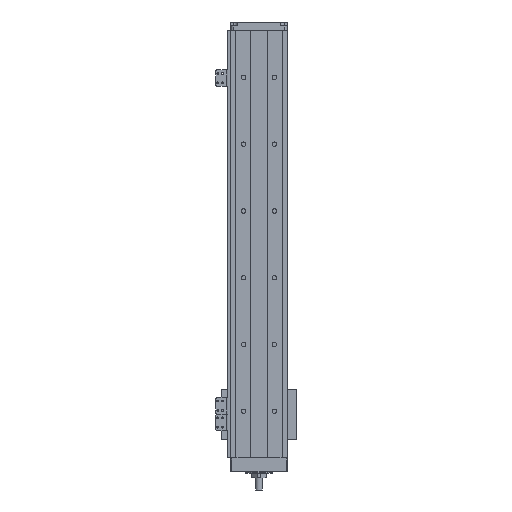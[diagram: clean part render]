
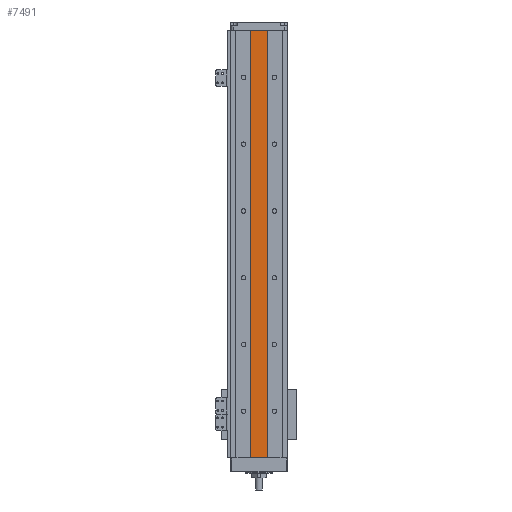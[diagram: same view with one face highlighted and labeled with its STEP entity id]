
A CAD part, front view. The second image highlights one B-rep face of the part: STEP entity #7491.
In plain terms, the highlighted planar face has unit normal (0, -1, 0).
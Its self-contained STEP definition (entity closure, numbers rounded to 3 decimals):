
#27 = CARTESIAN_POINT ( 'NONE',  ( -12.269, -13.462, 0. ) ) ;
#2069 = EDGE_CURVE ( 'NONE', #17194, #11913, #22818, .T. ) ;
#4207 = PLANE ( 'NONE',  #17218 ) ;
#5808 = CARTESIAN_POINT ( 'NONE',  ( -12.269, -13.462, 640. ) ) ;
#6252 = EDGE_CURVE ( 'NONE', #8480, #11913, #10338, .T. ) ;
#7025 = VECTOR ( 'NONE', #20827, 1000. ) ;
#7036 = CARTESIAN_POINT ( 'NONE',  ( 11.731, -13.462, 0. ) ) ;
#7491 = ADVANCED_FACE ( 'NONE', ( #11875 ), #4207, .F. ) ;
#8480 = VERTEX_POINT ( 'NONE', #16109 ) ;
#8508 = VECTOR ( 'NONE', #14448, 1000. ) ;
#10338 = LINE ( 'NONE', #27, #30479 ) ;
#11615 = ORIENTED_EDGE ( 'NONE', *, *, #2069, .F. ) ;
#11875 = FACE_OUTER_BOUND ( 'NONE', #29252, .T. ) ;
#11913 = VERTEX_POINT ( 'NONE', #7036 ) ;
#12116 = CARTESIAN_POINT ( 'NONE',  ( -12.269, -13.462, 640. ) ) ;
#14448 = DIRECTION ( 'NONE',  ( 1., 0., 0. ) ) ;
#14632 = CARTESIAN_POINT ( 'NONE',  ( 11.731, -13.462, 640. ) ) ;
#15615 = CARTESIAN_POINT ( 'NONE',  ( 11.731, -13.462, 640. ) ) ;
#16040 = ORIENTED_EDGE ( 'NONE', *, *, #19378, .T. ) ;
#16109 = CARTESIAN_POINT ( 'NONE',  ( -12.269, -13.462, 0. ) ) ;
#16449 = VERTEX_POINT ( 'NONE', #31011 ) ;
#16491 = CARTESIAN_POINT ( 'NONE',  ( -12.269, -13.462, 640. ) ) ;
#16924 = DIRECTION ( 'NONE',  ( 0., 0., 1. ) ) ;
#17194 = VERTEX_POINT ( 'NONE', #14632 ) ;
#17218 = AXIS2_PLACEMENT_3D ( 'NONE', #16491, #21891, #16924 ) ;
#17392 = ORIENTED_EDGE ( 'NONE', *, *, #6252, .T. ) ;
#19378 = EDGE_CURVE ( 'NONE', #16449, #8480, #23197, .T. ) ;
#19810 = DIRECTION ( 'NONE',  ( 1., 0., 0. ) ) ;
#20827 = DIRECTION ( 'NONE',  ( 0., 0., -1. ) ) ;
#21891 = DIRECTION ( 'NONE',  ( 0., 1., 0. ) ) ;
#22818 = LINE ( 'NONE', #15615, #26816 ) ;
#23197 = LINE ( 'NONE', #5808, #7025 ) ;
#26816 = VECTOR ( 'NONE', #28443, 1000. ) ;
#27672 = EDGE_CURVE ( 'NONE', #16449, #17194, #31809, .T. ) ;
#28359 = ORIENTED_EDGE ( 'NONE', *, *, #27672, .F. ) ;
#28443 = DIRECTION ( 'NONE',  ( 0., 0., -1. ) ) ;
#29252 = EDGE_LOOP ( 'NONE', ( #17392, #11615, #28359, #16040 ) ) ;
#30479 = VECTOR ( 'NONE', #19810, 1000. ) ;
#31011 = CARTESIAN_POINT ( 'NONE',  ( -12.269, -13.462, 640. ) ) ;
#31809 = LINE ( 'NONE', #12116, #8508 ) ;
